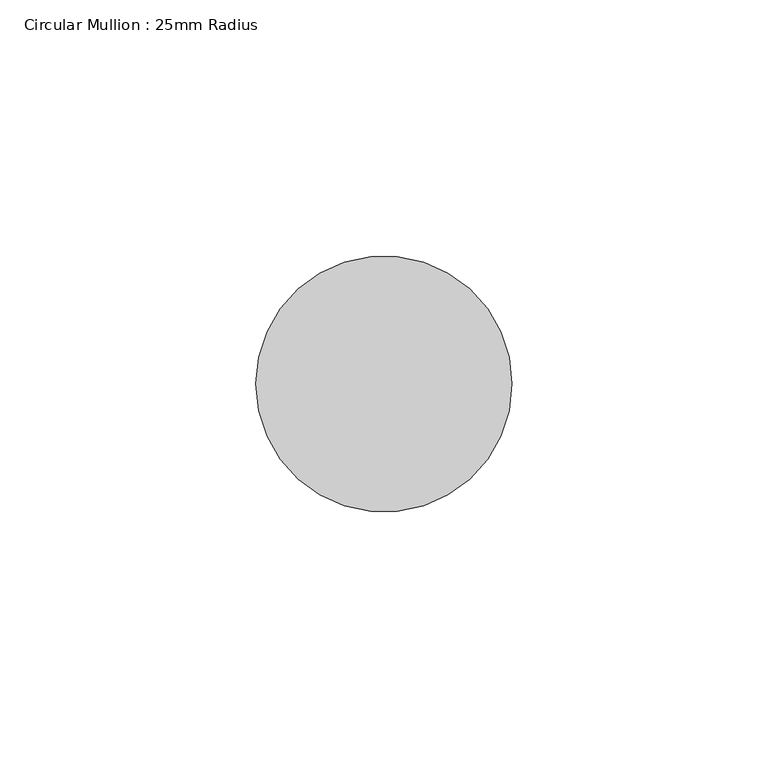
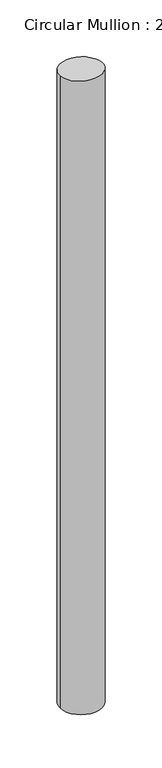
"""IFC4 building model written with IfcOpenShell, lengths in millimetres: member geometry, Circular Mullion : 25mm Radius."""

import ifcopenshell
import ifcopenshell.guid

model = None  # the IFC model being written
_history = None  # IfcOwnerHistory: only IFC2X3 demands one
_inside = {}  # id of a spatial element -> (the spatial element, [elements in it])
_under = {}  # id of a project, library or spatial element -> (it, [spatial elements below it])
_declared = {}  # id of a project -> (the project, [libraries it declares])
_typed = {}  # id of a type object -> (the type object, [elements of that type])
_made_of = {}  # id of a material, layer set ... -> (it, [elements and type objects made of it])


def new_model(schema):
    """Start an empty IFC model of exactly this schema.

    Asked for "IFC4X3", IfcOpenShell would pick the latest addendum, in which some entities
    have other attributes; the version numbers below select the first issue.
    IFC2X3 requires an IfcOwnerHistory on every rooted entity: one is made here for all.
    """
    global model, _history
    if schema == "IFC4X3":
        model = ifcopenshell.file(schema_version=(4, 3, 0, 0))
    else:
        model = ifcopenshell.file(schema=schema)
    _inside.clear()
    _under.clear()
    _declared.clear()
    _typed.clear()
    _made_of.clear()
    _history = None
    if model.schema == "IFC2X3":
        org = make("IfcOrganization", Name="unknown")
        user = make(
            "IfcPersonAndOrganization",
            ThePerson=make("IfcPerson", FamilyName="unknown"),
            TheOrganization=org,
        )
        app = make(
            "IfcApplication",
            ApplicationDeveloper=org,
            Version="unknown",
            ApplicationFullName="unknown",
            ApplicationIdentifier="unknown",
        )
        _history = make(
            "IfcOwnerHistory",
            OwningUser=user,
            OwningApplication=app,
            ChangeAction="ADDED",
            CreationDate=0,
        )
    return model


def make(cls, **values):
    """One entity of the class cls with the attributes given. An attribute that is None is left unset."""
    return model.create_entity(
        cls, **{name: value for name, value in values.items() if value is not None}
    )


def rooted(cls, **values):
    """An entity with a GlobalId (a new one), such as an element, a storey or a relation."""
    return make(cls, GlobalId=ifcopenshell.guid.new(), OwnerHistory=_history, **values)


def si_unit(unit_type, name, prefix=None):
    """IfcSIUnit, for example si_unit("LENGTHUNIT", "METRE", prefix="MILLI")."""
    return make("IfcSIUnit", UnitType=unit_type, Prefix=prefix, Name=name)


def assignment(units):
    """IfcUnitAssignment: the units of a project."""
    return None if units is None else make("IfcUnitAssignment", Units=units)


def point(xyz):
    """IfcCartesianPoint."""
    return None if xyz is None else make("IfcCartesianPoint", Coordinates=xyz)


def direction(xyz):
    """IfcDirection."""
    return None if xyz is None else make("IfcDirection", DirectionRatios=xyz)


def frame(location, z_axis=None, x_axis=None):
    """IfcAxis2Placement3D, a coordinate frame: its origin and axes. An axis left out is left unset."""
    return make(
        "IfcAxis2Placement3D",
        Location=point(location),
        Axis=direction(z_axis),
        RefDirection=direction(x_axis),
    )


def origin():
    """The frame at (0, 0, 0) with its axes left unset."""
    return frame((0.0, 0.0, 0.0))


def place(relative_to, where):
    """IfcLocalPlacement: puts the frame where relative to a parent placement (None: the world)."""
    return make(
        "IfcLocalPlacement", PlacementRelTo=relative_to, RelativePlacement=where
    )


def context(
    kind, dimensions, precision=None, world=None, true_north=None, identifier=None
):
    """IfcGeometricRepresentationContext, for example the 3D "Model" context."""
    return make(
        "IfcGeometricRepresentationContext",
        ContextIdentifier=identifier,
        ContextType=kind,
        CoordinateSpaceDimension=dimensions,
        Precision=precision,
        WorldCoordinateSystem=world,
        TrueNorth=true_north,
    )


def project(units=None, contexts=None):
    """IfcProject with its units and contexts."""
    return rooted(
        "IfcProject",
        Name="project",
        RepresentationContexts=contexts,
        UnitsInContext=assignment(units),
    )


def spatial(cls, under=None, at=None, **own):
    """A site, building, storey or space (cls), placed at a placement, below another one or the project."""
    s = rooted(cls, ObjectPlacement=at, **own)
    if under is not None:
        _under.setdefault(under.id(), (under, []))[1].append(s)
    return s


def circle_curve(where, radius):
    """IfcCircle in the frame where."""
    return make("IfcCircle", Position=where, Radius=radius)


def ellipse_curve(where, semi_axis1, semi_axis2):
    """IfcEllipse in the frame where."""
    return make(
        "IfcEllipse", Position=where, SemiAxis1=semi_axis1, SemiAxis2=semi_axis2
    )


def shape(context_of_items, identifier, shape_type, items):
    """IfcShapeRepresentation: the items that make up one representation, for example the "Body"."""
    return make(
        "IfcShapeRepresentation",
        ContextOfItems=context_of_items,
        RepresentationIdentifier=identifier,
        RepresentationType=shape_type,
        Items=items,
    )


def source(mapping_origin, context_of_items, identifier, shape_type, items):
    """IfcRepresentationMap: a shape defined once, which mapped items show again and again."""
    return make(
        "IfcRepresentationMap",
        MappingOrigin=mapping_origin,
        MappedRepresentation=shape(context_of_items, identifier, shape_type, items),
    )


def transform(
    local_origin,
    x_axis=None,
    y_axis=None,
    z_axis=None,
    scale=None,
    scale2=None,
    scale3=None,
    uniform=True,
):
    """IfcCartesianTransformationOperator3D, or its non-uniform kind. x_axis, y_axis, z_axis: its Axis1, 2, 3."""
    if uniform:
        return make(
            "IfcCartesianTransformationOperator3D",
            Axis1=direction(x_axis),
            Axis2=direction(y_axis),
            LocalOrigin=point(local_origin),
            Scale=scale,
            Axis3=direction(z_axis),
        )
    return make(
        "IfcCartesianTransformationOperator3DnonUniform",
        Axis1=direction(x_axis),
        Axis2=direction(y_axis),
        LocalOrigin=point(local_origin),
        Scale=scale,
        Axis3=direction(z_axis),
        Scale2=scale2,
        Scale3=scale3,
    )


def mapped(mapping_source, mapping_target):
    """IfcMappedItem: shows the shape of a source again, moved by a transform."""
    return make(
        "IfcMappedItem", MappingSource=mapping_source, MappingTarget=mapping_target
    )


def made_of(thing, what):
    """Note that an element or type object is made of a material, layer set ...; save() writes the relation."""
    if what is not None:
        _made_of.setdefault(what.id(), (what, []))[1].append(thing)
    return thing


def element(
    cls,
    number,
    at=None,
    inside=None,
    cuts=None,
    type_object=None,
    material=None,
    context=None,
    identifier="Body",
    shape_type=None,
    held_by="IfcProductDefinitionShape",
    body=None,
    shapes=None,
    **own,
):
    """One element of the class cls, such as IfcWall. Its Tag is "e" and its number.

    at: its placement. inside: the storey or other place that contains it. cuts: it is an
    opening in that element (IfcRelVoidsElement). A single representation is given by context,
    identifier, shape_type and body (its items); several are given by shapes. held_by: the class
    of the entity that holds the representations. save() writes the other relations.
    """
    e = rooted(cls, Tag="e%d" % number, ObjectPlacement=at, **own)
    if body is not None:
        shapes = [shape(context, identifier, shape_type, body)]
    if shapes is not None:
        e.Representation = make(held_by, Representations=shapes)
    if inside is not None:
        _inside.setdefault(inside.id(), (inside, []))[1].append(e)
    if cuts is not None:
        rooted(
            "IfcRelVoidsElement", RelatingBuildingElement=cuts, RelatedOpeningElement=e
        )
    if type_object is not None:
        _typed.setdefault(type_object.id(), (type_object, []))[1].append(e)
    return made_of(e, material)


def aggregate(whole, parts):
    """IfcRelAggregates: a whole, such as a stair, and the parts it consists of."""
    return rooted("IfcRelAggregates", RelatingObject=whole, RelatedObjects=parts)


def save(model, path):
    """Write the relations noted so far, then the file.

    IfcRelAggregates (storeys below a building ...), IfcRelContainedInSpatialStructure (elements
    in a storey), IfcRelDefinesByType, IfcRelAssociatesMaterial and IfcRelDeclares: one each for
    every whole, place, type object, material and project.
    """
    for whole, parts in _under.values():
        aggregate(whole, parts)
    for where, things in _inside.values():
        rooted(
            "IfcRelContainedInSpatialStructure",
            RelatedElements=things,
            RelatingStructure=where,
        )
    for kind, things in _typed.values():
        rooted("IfcRelDefinesByType", RelatedObjects=things, RelatingType=kind)
    for what, things in _made_of.values():
        rooted("IfcRelAssociatesMaterial", RelatedObjects=things, RelatingMaterial=what)
    for by, libraries in _declared.values():
        rooted("IfcRelDeclares", RelatingContext=by, RelatedDefinitions=libraries)
    model.write(path)


def plane_surface(at):
    """IfcPlane: the flat surface through the origin of the frame at, square to its z axis."""
    return make("IfcPlane", Position=at)


def cylinder_surface(at, radius):
    """IfcCylindricalSurface: all points at the distance radius from the z axis of the frame at."""
    return make("IfcCylindricalSurface", Position=at, Radius=radius)


def advanced_brep(points, edges, surfaces, faces):
    """IfcAdvancedBrep: a solid bounded by faces that lie on surfaces and meet in shared edges.

    An edge is (start, end): straight between two places in points (the first is 0);
    or (start, end, curve); or (start, end, curve, False) where it runs against its curve.
    A face is (place in surfaces, loops), or (place, loops, False) where it looks against
    its surface's normal. A loop lists edges by number (the first is 1), with a minus sign
    where the edge is run from its end to its start. The first loop is the outer one.
    """
    corners = [point(p) for p in points]
    vertices = [make("IfcVertexPoint", VertexGeometry=c) for c in corners]
    made = []
    for start, end, *more in edges:
        made.append(
            make(
                "IfcEdgeCurve",
                EdgeStart=vertices[start],
                EdgeEnd=vertices[end],
                EdgeGeometry=more[0] if more else make("IfcPolyline", Points=[corners[start], corners[end]]),
                SameSense=more[1] if len(more) > 1 else True,
            )
        )
    hull = []
    for where, loops, *sense in faces:
        bounds = []
        for j, loop in enumerate(loops):
            ring = [make("IfcOrientedEdge", EdgeElement=made[abs(k) - 1], Orientation=k > 0) for k in loop]
            bounds.append(
                make(
                    "IfcFaceOuterBound" if j == 0 else "IfcFaceBound",
                    Bound=make("IfcEdgeLoop", EdgeList=ring),
                    Orientation=True,
                )
            )
        hull.append(make("IfcAdvancedFace", Bounds=bounds, FaceSurface=surfaces[where], SameSense=sense[0] if sense else True))
    return make("IfcAdvancedBrep", Outer=make("IfcClosedShell", CfsFaces=hull))


def circular_mullion_25mm_radius_b3aa5af7(model_context):
    return source(origin(), model_context, "Body", "AdvancedBrep", [
        advanced_brep(
        [(0.0, 0.0, -800.0000041), (-50.0, 0.0, -800.0000041), (-50.0, 0.0, 0.0), (0.0, 0.0, 0.0)],
        [
            (0, 1, circle_curve(frame((-25.0, 0.0, -800.0000041), z_axis=(0.0, 0.0, -1.0), x_axis=(1.0, 0.0, 0.0)), 25.0)),
            (1, 0, circle_curve(frame((-25.0, 0.0, -800.0000041), z_axis=(0.0, 0.0, -1.0), x_axis=(1.0, 0.0, 0.0)), 25.0)),
            (2, 3, ellipse_curve(frame((-25.0, 0.0, 0.0), z_axis=(0.0, -0.09733196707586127, -0.9952519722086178), x_axis=(0.0, -0.9952519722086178, 0.09733196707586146)), 25.119267, 25.0)),
            (3, 0),
            (1, 2),
            (3, 2, ellipse_curve(frame((-25.0, 0.0, 0.0), z_axis=(0.0, -0.09733196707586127, -0.9952519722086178), x_axis=(0.0, -0.9952519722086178, 0.09733196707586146)), 25.119267, 25.0)),
        ],
        [
            plane_surface(frame((0.0, -50.0, -800.0000041), z_axis=(0.0, 0.0, -1.0), x_axis=(-1.0, 0.0, 0.0))),
            cylinder_surface(frame((-25.0, 0.0, 0.0), z_axis=(0.0, 0.0, 1.0), x_axis=(1.0, 0.0, 0.0)), 25.0),
            plane_surface(frame((-304.8, 0.0, 0.0), z_axis=(0.0, 0.09733196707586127, 0.9952519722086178), x_axis=(0.0, 0.9952519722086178, -0.09733196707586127))),
        ],
        [
            (0, [[1, 2]]),
            (1, [[3, 4, -2, 5]]),
            (1, [[6, -5, -1, -4]]),
            (2, [[-3, -6]]),
        ],
    ),
    ])


if __name__ == "__main__":
    model = new_model("IFC4")
    model_context = context("Model", 3, world=origin())
    ifc_project = project(units=[si_unit("LENGTHUNIT", "METRE", prefix="MILLI")], contexts=[model_context])
    site = spatial("IfcSite", under=ifc_project)
    building = spatial("IfcBuilding", under=site)
    placement = place(None, origin())
    circular_mullion_25mm_radius_shape = circular_mullion_25mm_radius_b3aa5af7(model_context)
    element("IfcMember", 1, ObjectType="Circular Mullion : 25mm Radius", at=placement, inside=building, context=model_context, shape_type="MappedRepresentation", body=[
        mapped(circular_mullion_25mm_radius_shape, transform((0.0, 0.0, 0.0), x_axis=(1.0, 0.0, 0.0), y_axis=(0.0, 1.0, 0.0), z_axis=(0.0, 0.0, 1.0))),
    ])
    save(model, "model.ifc")
